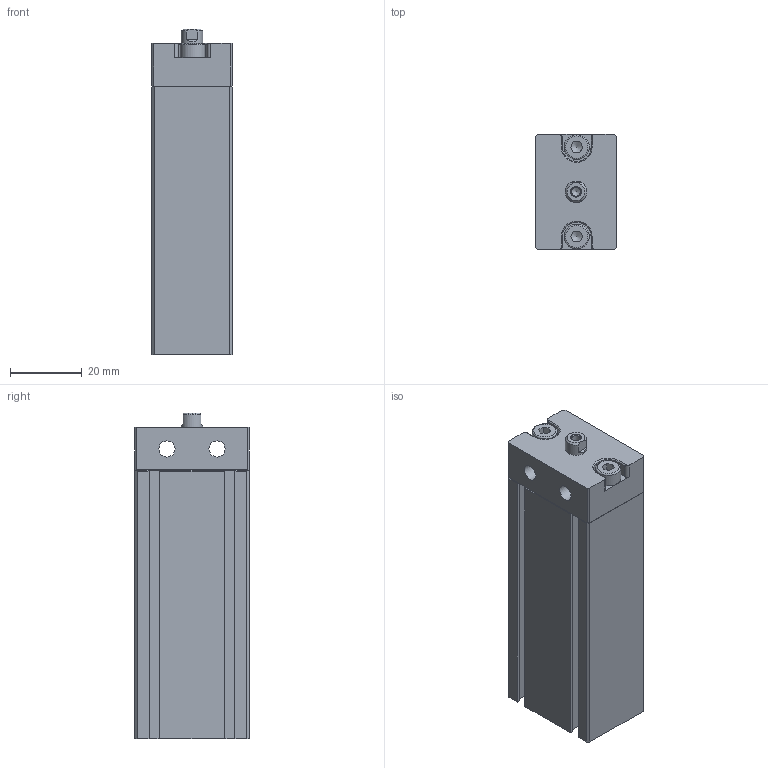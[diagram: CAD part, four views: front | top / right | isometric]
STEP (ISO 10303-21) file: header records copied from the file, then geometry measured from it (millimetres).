
FILE_DESCRIPTION((''),'2;1');
FILE_NAME('I:\3D電子目錄\氣缸\ND\ND\ND16\ND16x50.stp','2007-07-23T19:04:36',('Administrator'),(''),'Autodesk Inventor 11','Autodesk Inventor 11','');
FILE_SCHEMA(('AUTOMOTIVE_DESIGN { 1 0 10303 214 1 1 1 1 }'));
Length unit declared in the file: millimetre
Products named in the file (4): ND16; R 形環 18; ISO 4762 M4 x 10
Assembly tree (4 placements, depth 2):
  ND16
    ND16
    R 形環 18
    ISO 4762 M4 x 10  x2
Bounding box: 22.4 x 32.1 x 91 mm (x, y, z)
Volume: 53752.8 mm3; surface area: 17393 mm2
Topology: 5 solids, 5 shells, 170 faces, 408 edges, 261 vertices
Faces by surface type: plane 109, cylinder 26, cone 16, bspline 16, torus 3
Full cylindrical faces by diameter (mm): 1.5 x4, 4 x2, 4.5 x2, 6 x1, 7 x2, 10 x1, 18 x1, 19 x1
Entity records: 4537 total; most frequent: CARTESIAN_POINT 968, DIRECTION 708, ORIENTED_EDGE 668, EDGE_CURVE 334, AXIS2_PLACEMENT_3D 236, VECTOR 236, LINE 236, VERTEX_POINT 234
